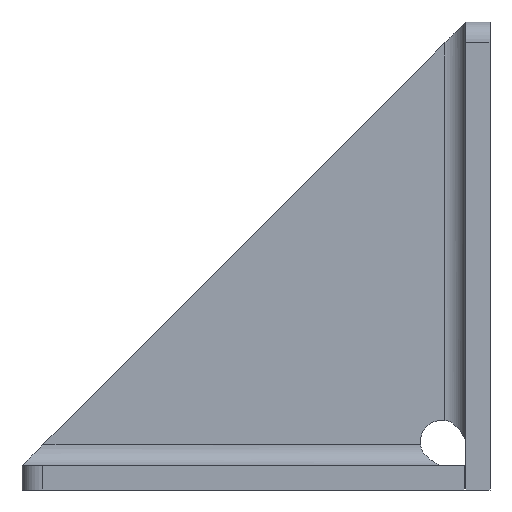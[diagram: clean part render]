
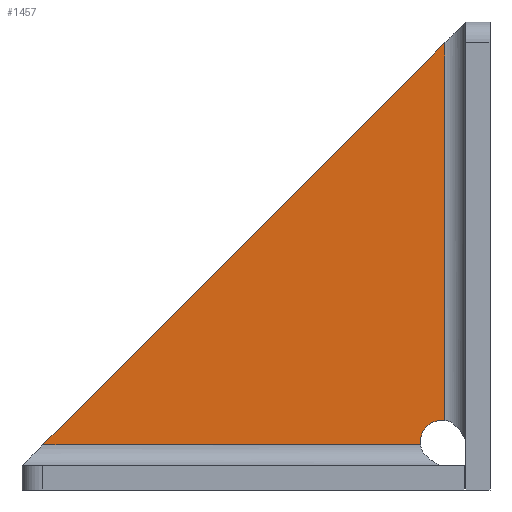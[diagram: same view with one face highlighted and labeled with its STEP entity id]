
A CAD part, left-side view. The second image highlights one B-rep face of the part: STEP entity #1457.
In plain terms, the highlighted planar face has unit normal (-1, 0, 0).
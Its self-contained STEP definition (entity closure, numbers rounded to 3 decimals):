
#63 = VERTEX_POINT ( 'NONE', #1051 ) ;
#227 = CARTESIAN_POINT ( 'NONE',  ( 36.783, -9.203, 0. ) ) ;
#265 = VERTEX_POINT ( 'NONE', #925 ) ;
#291 = VERTEX_POINT ( 'NONE', #2461 ) ;
#304 = CARTESIAN_POINT ( 'NONE',  ( 36.783, -6.203, 6.1 ) ) ;
#441 = EDGE_CURVE ( 'NONE', #554, #687, #682, .T. ) ;
#468 = PLANE ( 'NONE',  #2143 ) ;
#554 = VERTEX_POINT ( 'NONE', #1610 ) ;
#558 = DIRECTION ( 'NONE',  ( 0., -1., 0. ) ) ;
#561 = EDGE_CURVE ( 'NONE', #687, #291, #942, .T. ) ;
#595 = ORIENTED_EDGE ( 'NONE', *, *, #1083, .F. ) ;
#608 = VECTOR ( 'NONE', #1359, 1000. ) ;
#666 = DIRECTION ( 'NONE',  ( -1., 0., 0. ) ) ;
#682 = LINE ( 'NONE', #2125, #2139 ) ;
#687 = VERTEX_POINT ( 'NONE', #304 ) ;
#733 = VECTOR ( 'NONE', #558, 1000. ) ;
#761 = CARTESIAN_POINT ( 'NONE',  ( 36.783, -6.203, 5.6 ) ) ;
#803 = DIRECTION ( 'NONE',  ( 0., -0.707, 0.707 ) ) ;
#809 = EDGE_LOOP ( 'NONE', ( #595, #1174, #928, #1630, #1265, #1459 ) ) ;
#854 = DIRECTION ( 'NONE',  ( 1., 0., 0. ) ) ;
#925 = CARTESIAN_POINT ( 'NONE',  ( 36.783, 40.597, 5.6 ) ) ;
#928 = ORIENTED_EDGE ( 'NONE', *, *, #441, .T. ) ;
#942 = CIRCLE ( 'NONE', #1137, 2.5 ) ;
#978 = DIRECTION ( 'NONE',  ( 0., 0., 1. ) ) ;
#1014 = LINE ( 'NONE', #1879, #2310 ) ;
#1051 = CARTESIAN_POINT ( 'NONE',  ( 36.783, -9.203, 55.4 ) ) ;
#1083 = EDGE_CURVE ( 'NONE', #265, #63, #1084, .T. ) ;
#1084 = LINE ( 'NONE', #1935, #2100 ) ;
#1137 = AXIS2_PLACEMENT_3D ( 'NONE', #1992, #854, #2189 ) ;
#1174 = ORIENTED_EDGE ( 'NONE', *, *, #1753, .T. ) ;
#1265 = ORIENTED_EDGE ( 'NONE', *, *, #1720, .T. ) ;
#1359 = DIRECTION ( 'NONE',  ( 0., 0., 1. ) ) ;
#1457 = ADVANCED_FACE ( 'NONE', ( #2286 ), #468, .T. ) ;
#1459 = ORIENTED_EDGE ( 'NONE', *, *, #1827, .T. ) ;
#1558 = LINE ( 'NONE', #227, #608 ) ;
#1562 = CARTESIAN_POINT ( 'NONE',  ( 36.783, -9.203, 8.6 ) ) ;
#1610 = CARTESIAN_POINT ( 'NONE',  ( 36.783, -6.203, 5.6 ) ) ;
#1630 = ORIENTED_EDGE ( 'NONE', *, *, #561, .T. ) ;
#1720 = EDGE_CURVE ( 'NONE', #291, #2229, #1014, .T. ) ;
#1753 = EDGE_CURVE ( 'NONE', #265, #554, #2255, .T. ) ;
#1799 = CARTESIAN_POINT ( 'NONE',  ( 36.783, 0., 0. ) ) ;
#1827 = EDGE_CURVE ( 'NONE', #2229, #63, #1558, .T. ) ;
#1879 = CARTESIAN_POINT ( 'NONE',  ( 36.783, 0., 8.6 ) ) ;
#1935 = CARTESIAN_POINT ( 'NONE',  ( 36.783, 43.197, 3. ) ) ;
#1992 = CARTESIAN_POINT ( 'NONE',  ( 36.783, -8.703, 6.1 ) ) ;
#1994 = DIRECTION ( 'NONE',  ( 0., -1., 0. ) ) ;
#2072 = DIRECTION ( 'NONE',  ( 0., -1., 0. ) ) ;
#2100 = VECTOR ( 'NONE', #803, 1000. ) ;
#2125 = CARTESIAN_POINT ( 'NONE',  ( 36.783, -6.203, 0. ) ) ;
#2139 = VECTOR ( 'NONE', #978, 1000. ) ;
#2143 = AXIS2_PLACEMENT_3D ( 'NONE', #1799, #666, #1994 ) ;
#2189 = DIRECTION ( 'NONE',  ( 0., -1., 0. ) ) ;
#2229 = VERTEX_POINT ( 'NONE', #1562 ) ;
#2255 = LINE ( 'NONE', #761, #733 ) ;
#2286 = FACE_OUTER_BOUND ( 'NONE', #809, .T. ) ;
#2310 = VECTOR ( 'NONE', #2072, 1000. ) ;
#2461 = CARTESIAN_POINT ( 'NONE',  ( 36.783, -8.703, 8.6 ) ) ;
